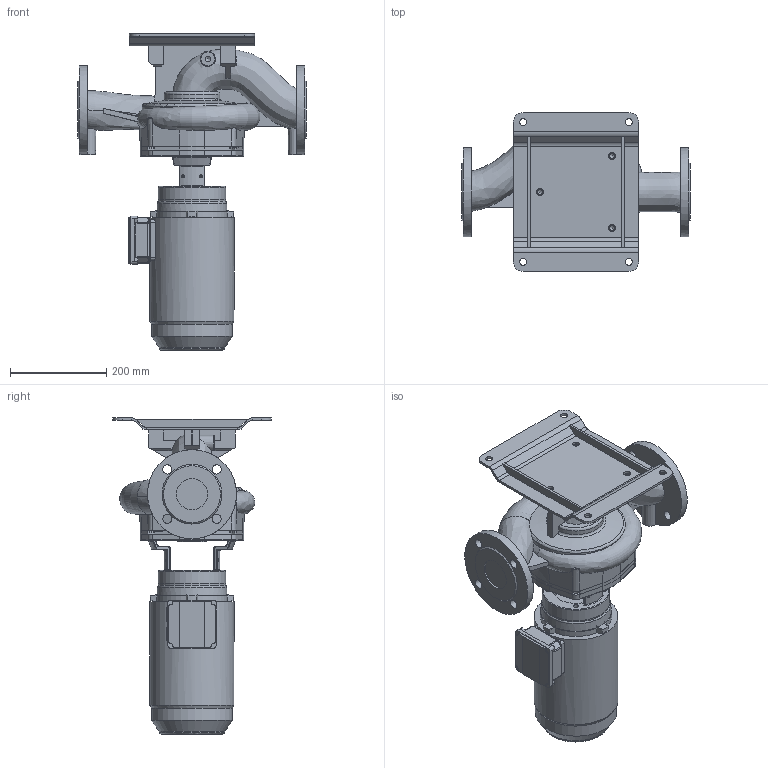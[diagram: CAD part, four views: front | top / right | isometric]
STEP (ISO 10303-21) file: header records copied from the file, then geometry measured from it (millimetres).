
FILE_DESCRIPTION (( 'STEP AP203' ), '1' );
FILE_NAME ('KI65-180_4_1,5kW.STEP', '2024-07-29T11:27:01', ( '' ), ( '' ), 'SwSTEP 2.0', 'SolidWorks 2023', '' );
FILE_SCHEMA (( 'CONFIG_CONTROL_DESIGN' ));
Length unit declared in the file: millimetre
Products named in the file (11): 230482; 230481; 220543; 220542; 230415; HMA3_90L-4_solid; KI65-180_4_1,5kW; 230031; 230414; 230033; 230034
Assembly tree (11 placements, depth 3):
  KI65-180_4_1,5kW
    HMA3_90L-4_solid
    230415
      230414
    230482
      230481
    220543
      220542
    230034
      230031
      230033  x2
Bounding box: 475 x 330.18 x 656.94 mm (x, y, z)
Volume: 17535633.9 mm3; surface area: 1105662.2 mm2
Topology: 7 solids, 7 shells, 841 faces, 2168 edges, 1337 vertices
Faces by surface type: plane 316, cylinder 273, bspline 103, torus 69, cone 66, sphere 14
Full cylindrical faces by diameter (mm): 5 x8, 6 x3, 6.8 x4, 7 x8, 10 x4, 10.2 x7, 11.8 x4, 14 x4, 14.5 x7, 19 x8, 65 x2, 95 x1, 136 x1, 140 x2, 150 x1, 168.6 x1, 174.6 x1, 185 x2, 186 x1, 189 x1
Entity records: 46505 total; most frequent: CARTESIAN_POINT 26453, ORIENTED_EDGE 3942, DIRECTION 3798, EDGE_CURVE 1971, AXIS2_PLACEMENT_3D 1467, VERTEX_POINT 1277, EDGE_LOOP 1030, FACE_OUTER_BOUND 907
